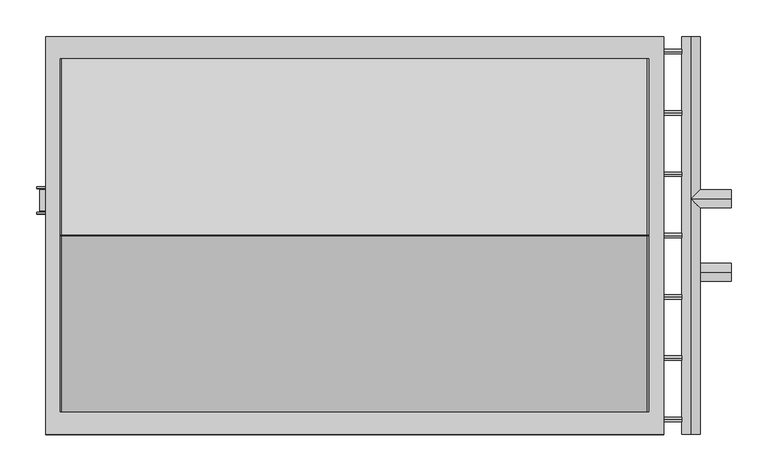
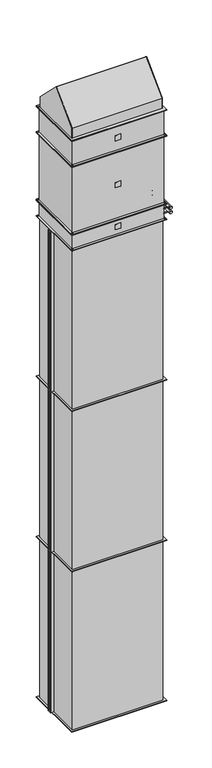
"""IFC4 building model written with IfcOpenShell, lengths in millimetres: proxy geometry, KORF_Завеса_ВодянойНагрев_PWZ_C : PWZ-C 80-50 W2."""

from ifc_helpers import new_model, si_unit, point, frame, frame_2d, origin, origin_with_axes, place, context, project, spatial, polyline, circle_curve, ellipse_curve, trimmed, segment, composite_curve, outline, extrude, source, transform, mapped, element, save
from ifc_brep_helpers import plane_surface, cylinder_surface, advanced_brep


def mechanical_equipment_de77129b(model_context):
    return source(origin(), model_context, "Body", "SolidModel", [
        extrude(outline(polyline([(25.0, -255.0), (-25.0, -255.0), (-25.0, -253.0), (25.0, -253.0), (25.0, -255.0)])), frame((0.0, 0.0, 4550.0), z_axis=(0.0, 0.0, 1.0), x_axis=(1.0, 0.0, 0.0)), (0.0, 0.0, 1.0), 50.0),
        extrude(outline(polyline([(420.0, -270.0), (-420.0, -270.0), (-420.0, 270.0), (420.0, 270.0), (420.0, -270.0)]), holes=[polyline([(400.0, -250.0), (400.0, 250.0), (-400.0, 250.0), (-400.0, -250.0), (400.0, -250.0)]), composite_curve([segment(trimmed(circle_curve(frame_2d((-410.0, -260.0)), 4.5), [point((-405.5, -260.0))], [point((-414.5, -260.0))], True, "CARTESIAN"), True, "CONTINUOUS"), segment(trimmed(circle_curve(frame_2d((-410.0, -260.0)), 4.5), [point((-414.5, -260.0))], [point((-405.5, -260.0))], True, "CARTESIAN"), True, "CONTINUOUS")], self_intersect=False), composite_curve([segment(trimmed(circle_curve(frame_2d((410.0, -260.0)), 4.5), [point((414.5, -260.0))], [point((405.5, -260.0))], True, "CARTESIAN"), True, "CONTINUOUS"), segment(trimmed(circle_curve(frame_2d((410.0, -260.0)), 4.5), [point((405.5, -260.0))], [point((414.5, -260.0))], True, "CARTESIAN"), True, "CONTINUOUS")], self_intersect=False), composite_curve([segment(trimmed(circle_curve(frame_2d((410.0, 260.0)), 4.5), [point((414.5, 260.0))], [point((405.5, 260.0))], True, "CARTESIAN"), True, "CONTINUOUS"), segment(trimmed(circle_curve(frame_2d((410.0, 260.0)), 4.5), [point((405.5, 260.0))], [point((414.5, 260.0))], True, "CARTESIAN"), True, "CONTINUOUS")], self_intersect=False), composite_curve([segment(trimmed(circle_curve(frame_2d((-410.0, 260.0)), 4.5), [point((-405.5, 260.0))], [point((-414.5, 260.0))], True, "CARTESIAN"), True, "CONTINUOUS"), segment(trimmed(circle_curve(frame_2d((-410.0, 260.0)), 4.5), [point((-414.5, 260.0))], [point((-405.5, 260.0))], True, "CARTESIAN"), True, "CONTINUOUS")], self_intersect=False)]), frame((0.0, 0.0, 4645.0), z_axis=(0.0, 0.0, 1.0), x_axis=(1.0, 0.0, 0.0)), (0.0, 0.0, 1.0), 5.0),
        extrude(outline(polyline([(420.0, -270.0), (-420.0, -270.0), (-420.0, 270.0), (420.0, 270.0), (420.0, -270.0)]), holes=[polyline([(400.0, -250.0), (400.0, 250.0), (-400.0, 250.0), (-400.0, -250.0), (400.0, -250.0)]), composite_curve([segment(trimmed(circle_curve(frame_2d((-410.0, -260.0)), 4.5), [point((-405.5, -260.0))], [point((-414.5, -260.0))], True, "CARTESIAN"), True, "CONTINUOUS"), segment(trimmed(circle_curve(frame_2d((-410.0, -260.0)), 4.5), [point((-414.5, -260.0))], [point((-405.5, -260.0))], True, "CARTESIAN"), True, "CONTINUOUS")], self_intersect=False), composite_curve([segment(trimmed(circle_curve(frame_2d((410.0, -260.0)), 4.5), [point((414.5, -260.0))], [point((405.5, -260.0))], True, "CARTESIAN"), True, "CONTINUOUS"), segment(trimmed(circle_curve(frame_2d((410.0, -260.0)), 4.5), [point((405.5, -260.0))], [point((414.5, -260.0))], True, "CARTESIAN"), True, "CONTINUOUS")], self_intersect=False), composite_curve([segment(trimmed(circle_curve(frame_2d((410.0, 260.0)), 4.5), [point((414.5, 260.0))], [point((405.5, 260.0))], True, "CARTESIAN"), True, "CONTINUOUS"), segment(trimmed(circle_curve(frame_2d((410.0, 260.0)), 4.5), [point((405.5, 260.0))], [point((414.5, 260.0))], True, "CARTESIAN"), True, "CONTINUOUS")], self_intersect=False), composite_curve([segment(trimmed(circle_curve(frame_2d((-410.0, 260.0)), 4.5), [point((-405.5, 260.0))], [point((-414.5, 260.0))], True, "CARTESIAN"), True, "CONTINUOUS"), segment(trimmed(circle_curve(frame_2d((-410.0, 260.0)), 4.5), [point((-414.5, 260.0))], [point((-405.5, 260.0))], True, "CARTESIAN"), True, "CONTINUOUS")], self_intersect=False)]), frame((0.0, 0.0, 4500.0), z_axis=(0.0, 0.0, 1.0), x_axis=(1.0, 0.0, 0.0)), (0.0, 0.0, 1.0), 5.0),
        extrude(outline(polyline([(403.0, -253.0), (-403.0, -253.0), (-403.0, 253.0), (403.0, 253.0), (403.0, -253.0)])), frame((0.0, 0.0, 4505.0), z_axis=(0.0, 0.0, 1.0), x_axis=(1.0, 0.0, 0.0)), (0.0, 0.0, 1.0), 140.0),
        advanced_brep(
        [(512.0, -50.0, 4541.0), (512.0, -50.0, 4566.0), (457.5, -50.0, 4541.0), (457.5, -50.0, 4566.0), (457.5, -270.0, 4541.0), (457.5, -270.0, 4566.0), (457.5, 270.0, 4541.0), (457.5, 270.0, 4566.0)],
        [
            (0, 1, circle_curve(frame((512.0, -50.0, 4553.5), z_axis=(1.0, 0.0, 0.0), x_axis=(0.0, 0.0, 1.0000000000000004)), 12.5)),
            (1, 0, circle_curve(frame((512.0, -50.0, 4553.5), z_axis=(1.0, 0.0, 0.0), x_axis=(0.0, 0.0, 1.0000000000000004)), 12.5)),
            (0, 2),
            (2, 3, ellipse_curve(frame((457.5, -50.0, 4553.5), z_axis=(0.7071067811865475, -0.7071067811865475, 0.0), x_axis=(0.7071067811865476, 0.7071067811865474, 0.0)), 17.6776695, 12.5)),
            (3, 1),
            (3, 2, ellipse_curve(frame((457.5, -50.0, 4553.5), z_axis=(0.7071067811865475, 0.7071067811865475, 0.0), x_axis=(0.7071067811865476, -0.7071067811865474, 0.0)), 17.6776695, 12.5)),
            (4, 5, circle_curve(frame((457.5, -270.0, 4553.5), z_axis=(0.0, -1.0, 0.0), x_axis=(0.0, 0.0, 1.0000000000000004)), 12.5)),
            (5, 4, circle_curve(frame((457.5, -270.0, 4553.5), z_axis=(0.0, -1.0, 0.0), x_axis=(0.0, 0.0, 1.0000000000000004)), 12.5)),
            (6, 7, circle_curve(frame((457.5, 270.0, 4553.5), z_axis=(0.0, 1.0, 0.0), x_axis=(0.0, 0.0, 1.0000000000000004)), 12.5)),
            (7, 6, circle_curve(frame((457.5, 270.0, 4553.5), z_axis=(0.0, 1.0, 0.0), x_axis=(0.0, 0.0, 1.0000000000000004)), 12.5)),
            (4, 2),
            (3, 5),
            (7, 3),
            (2, 6),
        ],
        [
            plane_surface(frame((512.0, -50.0, 4566.0), z_axis=(1.0, 0.0, 0.0), x_axis=(0.0, -1.0, 0.0))),
            cylinder_surface(frame((457.5, -50.0, 4553.5), z_axis=(1.0000000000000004, 0.0, 0.0), x_axis=(0.0, 0.0, 1.0000000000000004)), 12.5),
            plane_surface(frame((457.5, -270.0, 4566.0), z_axis=(0.0, -1.0, 0.0), x_axis=(-1.0, 0.0, 0.0))),
            plane_surface(frame((457.5, 270.0, 4566.0), z_axis=(0.0, 1.0, 0.0), x_axis=(1.0, 0.0, 0.0))),
            cylinder_surface(frame((457.5, 270.0, 4553.5), z_axis=(0.0, -1.0, 0.0), x_axis=(0.0, 0.0, 1.0000000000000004)), 12.5),
        ],
        [
            (0, [[1, 2]]),
            (1, [[-1, 3, 4, 5]]),
            (1, [[-2, -5, 6, -3]]),
            (2, [[7, 8]]),
            (3, [[9, 10]]),
            (4, [[-7, 11, -6, 12]]),
            (4, [[-10, 13, -4, 14]]),
            (4, [[-8, -12, -13, -9, -14, -11]]),
        ],
    ),
        advanced_brep(
        [(512.0, 50.0, 4584.0), (512.0, 50.0, 4609.0), (457.5, 50.0, 4584.0), (457.5, 50.0, 4609.0), (457.5, -270.0, 4584.0), (457.5, -270.0, 4609.0), (457.5, 270.0, 4584.0), (457.5, 270.0, 4609.0)],
        [
            (0, 1, circle_curve(frame((512.0, 50.0, 4596.5), z_axis=(1.0, 0.0, 0.0), x_axis=(0.0, 0.0, 1.0000000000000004)), 12.5)),
            (1, 0, circle_curve(frame((512.0, 50.0, 4596.5), z_axis=(1.0, 0.0, 0.0), x_axis=(0.0, 0.0, 1.0000000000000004)), 12.5)),
            (0, 2),
            (2, 3, ellipse_curve(frame((457.5, 50.0, 4596.5), z_axis=(0.7071067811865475, -0.7071067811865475, 0.0), x_axis=(0.7071067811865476, 0.7071067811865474, 0.0)), 17.6776695, 12.5)),
            (3, 1),
            (3, 2, ellipse_curve(frame((457.5, 50.0, 4596.5), z_axis=(0.7071067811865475, 0.7071067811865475, 0.0), x_axis=(0.7071067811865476, -0.7071067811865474, 0.0)), 17.6776695, 12.5)),
            (4, 5, circle_curve(frame((457.5, -270.0, 4596.5), z_axis=(0.0, -1.0, 0.0), x_axis=(0.0, 0.0, 1.0000000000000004)), 12.5)),
            (5, 4, circle_curve(frame((457.5, -270.0, 4596.5), z_axis=(0.0, -1.0, 0.0), x_axis=(0.0, 0.0, 1.0000000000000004)), 12.5)),
            (6, 7, circle_curve(frame((457.5, 270.0, 4596.5), z_axis=(0.0, 1.0, 0.0), x_axis=(0.0, 0.0, 1.0000000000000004)), 12.5)),
            (7, 6, circle_curve(frame((457.5, 270.0, 4596.5), z_axis=(0.0, 1.0, 0.0), x_axis=(0.0, 0.0, 1.0000000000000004)), 12.5)),
            (4, 2),
            (3, 5),
            (7, 3),
            (2, 6),
        ],
        [
            plane_surface(frame((512.0, -50.0, 4566.0), z_axis=(1.0, 0.0, 0.0), x_axis=(0.0, -1.0, 0.0))),
            cylinder_surface(frame((0.0, 50.0, 4596.5), z_axis=(1.0000000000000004, 0.0, 0.0), x_axis=(0.0, 0.0, 1.0000000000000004)), 12.5),
            plane_surface(frame((457.5, -270.0, 4566.0), z_axis=(0.0, -1.0, 0.0), x_axis=(-1.0, 0.0, 0.0))),
            plane_surface(frame((457.5, 270.0, 4566.0), z_axis=(0.0, 1.0, 0.0), x_axis=(1.0, 0.0, 0.0))),
            cylinder_surface(frame((457.5, 0.0, 4596.5), z_axis=(0.0, -1.0, 0.0), x_axis=(0.0, 0.0, 1.0000000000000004)), 12.5),
        ],
        [
            (0, [[1, 2]]),
            (1, [[-1, 3, 4, 5]]),
            (1, [[-2, -5, 6, -3]]),
            (2, [[7, 8]]),
            (3, [[9, 10]]),
            (4, [[-7, 11, -6, 12]]),
            (4, [[-10, 13, -4, 14]]),
            (4, [[-8, -12, -13, -9, -14, -11]]),
        ],
    ),
        extrude(outline(composite_curve([segment(trimmed(circle_curve(frame_2d((-250.0, 4553.5)), 3.0), [point((-250.0, 4550.5))], [point((-250.0, 4556.5))], False, "CARTESIAN"), True, "CONTINUOUS"), segment(trimmed(circle_curve(frame_2d((-250.0, 4553.5)), 3.0), [point((-250.0, 4556.5))], [point((-250.0, 4550.5))], False, "CARTESIAN"), True, "CONTINUOUS")], self_intersect=False)), frame((403.0, 0.0, 0.0), z_axis=(1.0, 0.0, 0.0), x_axis=(0.0, 1.0, 0.0)), (0.0, 0.0, 1.0), 54.5),
        extrude(outline(composite_curve([segment(trimmed(circle_curve(frame_2d((-166.6666667, 4553.5)), 3.0), [point((-166.6666667, 4550.5))], [point((-166.6666667, 4556.5))], False, "CARTESIAN"), True, "CONTINUOUS"), segment(trimmed(circle_curve(frame_2d((-166.6666667, 4553.5)), 3.0), [point((-166.6666667, 4556.5))], [point((-166.6666667, 4550.5))], False, "CARTESIAN"), True, "CONTINUOUS")], self_intersect=False)), frame((403.0, 0.0, 0.0), z_axis=(1.0, 0.0, 0.0), x_axis=(0.0, 1.0, 0.0)), (0.0, 0.0, 1.0), 54.5),
        extrude(outline(composite_curve([segment(trimmed(circle_curve(frame_2d((-83.3333333, 4553.5)), 3.0), [point((-83.3333333, 4550.5))], [point((-83.3333333, 4556.5))], False, "CARTESIAN"), True, "CONTINUOUS"), segment(trimmed(circle_curve(frame_2d((-83.3333333, 4553.5)), 3.0), [point((-83.3333333, 4556.5))], [point((-83.3333333, 4550.5))], False, "CARTESIAN"), True, "CONTINUOUS")], self_intersect=False)), frame((403.0, 0.0, 0.0), z_axis=(1.0, 0.0, 0.0), x_axis=(0.0, 1.0, 0.0)), (0.0, 0.0, 1.0), 54.5),
        extrude(outline(composite_curve([segment(trimmed(circle_curve(frame_2d((0.0, 4553.5)), 3.0), [point((0.0, 4550.5))], [point((0.0, 4556.5))], False, "CARTESIAN"), True, "CONTINUOUS"), segment(trimmed(circle_curve(frame_2d((0.0, 4553.5)), 3.0), [point((0.0, 4556.5))], [point((0.0, 4550.5))], False, "CARTESIAN"), True, "CONTINUOUS")], self_intersect=False)), frame((403.0, 0.0, 0.0), z_axis=(1.0, 0.0, 0.0), x_axis=(0.0, 1.0, 0.0)), (0.0, 0.0, 1.0), 54.5),
        extrude(outline(composite_curve([segment(trimmed(circle_curve(frame_2d((83.3333333, 4553.5)), 3.0), [point((83.3333333, 4550.5))], [point((83.3333333, 4556.5))], False, "CARTESIAN"), True, "CONTINUOUS"), segment(trimmed(circle_curve(frame_2d((83.3333333, 4553.5)), 3.0), [point((83.3333333, 4556.5))], [point((83.3333333, 4550.5))], False, "CARTESIAN"), True, "CONTINUOUS")], self_intersect=False)), frame((403.0, 0.0, 0.0), z_axis=(1.0, 0.0, 0.0), x_axis=(0.0, 1.0, 0.0)), (0.0, 0.0, 1.0), 54.5),
        extrude(outline(composite_curve([segment(trimmed(circle_curve(frame_2d((166.6666667, 4553.5)), 3.0), [point((166.6666667, 4550.5))], [point((166.6666667, 4556.5))], False, "CARTESIAN"), True, "CONTINUOUS"), segment(trimmed(circle_curve(frame_2d((166.6666667, 4553.5)), 3.0), [point((166.6666667, 4556.5))], [point((166.6666667, 4550.5))], False, "CARTESIAN"), True, "CONTINUOUS")], self_intersect=False)), frame((403.0, 0.0, 0.0), z_axis=(1.0, 0.0, 0.0), x_axis=(0.0, 1.0, 0.0)), (0.0, 0.0, 1.0), 54.5),
        extrude(outline(composite_curve([segment(trimmed(circle_curve(frame_2d((166.6666667, 4596.5)), 3.0), [point((166.6666667, 4593.5))], [point((166.6666667, 4599.5))], False, "CARTESIAN"), True, "CONTINUOUS"), segment(trimmed(circle_curve(frame_2d((166.6666667, 4596.5)), 3.0), [point((166.6666667, 4599.5))], [point((166.6666667, 4593.5))], False, "CARTESIAN"), True, "CONTINUOUS")], self_intersect=False)), frame((403.0, 0.0, 0.0), z_axis=(1.0, 0.0, 0.0), x_axis=(0.0, 1.0, 0.0)), (0.0, 0.0, 1.0), 54.5),
        extrude(outline(composite_curve([segment(trimmed(circle_curve(frame_2d((83.3333333, 4596.5)), 3.0), [point((83.3333333, 4593.5))], [point((83.3333333, 4599.5))], False, "CARTESIAN"), True, "CONTINUOUS"), segment(trimmed(circle_curve(frame_2d((83.3333333, 4596.5)), 3.0), [point((83.3333333, 4599.5))], [point((83.3333333, 4593.5))], False, "CARTESIAN"), True, "CONTINUOUS")], self_intersect=False)), frame((403.0, 0.0, 0.0), z_axis=(1.0, 0.0, 0.0), x_axis=(0.0, 1.0, 0.0)), (0.0, 0.0, 1.0), 54.5),
        extrude(outline(composite_curve([segment(trimmed(circle_curve(frame_2d((0.0, 4596.5)), 3.0), [point((0.0, 4593.5))], [point((0.0, 4599.5))], False, "CARTESIAN"), True, "CONTINUOUS"), segment(trimmed(circle_curve(frame_2d((0.0, 4596.5)), 3.0), [point((0.0, 4599.5))], [point((0.0, 4593.5))], False, "CARTESIAN"), True, "CONTINUOUS")], self_intersect=False)), frame((403.0, 0.0, 0.0), z_axis=(1.0, 0.0, 0.0), x_axis=(0.0, 1.0, 0.0)), (0.0, 0.0, 1.0), 54.5),
        extrude(outline(composite_curve([segment(trimmed(circle_curve(frame_2d((-83.3333333, 4596.5)), 3.0), [point((-83.3333333, 4593.5))], [point((-83.3333333, 4599.5))], False, "CARTESIAN"), True, "CONTINUOUS"), segment(trimmed(circle_curve(frame_2d((-83.3333333, 4596.5)), 3.0), [point((-83.3333333, 4599.5))], [point((-83.3333333, 4593.5))], False, "CARTESIAN"), True, "CONTINUOUS")], self_intersect=False)), frame((403.0, 0.0, 0.0), z_axis=(1.0, 0.0, 0.0), x_axis=(0.0, 1.0, 0.0)), (0.0, 0.0, 1.0), 54.5),
        extrude(outline(composite_curve([segment(trimmed(circle_curve(frame_2d((-166.6666667, 4596.5)), 3.0), [point((-166.6666667, 4593.5))], [point((-166.6666667, 4599.5))], False, "CARTESIAN"), True, "CONTINUOUS"), segment(trimmed(circle_curve(frame_2d((-166.6666667, 4596.5)), 3.0), [point((-166.6666667, 4599.5))], [point((-166.6666667, 4593.5))], False, "CARTESIAN"), True, "CONTINUOUS")], self_intersect=False)), frame((403.0, 0.0, 0.0), z_axis=(1.0, 0.0, 0.0), x_axis=(0.0, 1.0, 0.0)), (0.0, 0.0, 1.0), 54.5),
        extrude(outline(composite_curve([segment(trimmed(circle_curve(frame_2d((-250.0, 4596.5)), 3.0), [point((-250.0, 4593.5))], [point((-250.0, 4599.5))], False, "CARTESIAN"), True, "CONTINUOUS"), segment(trimmed(circle_curve(frame_2d((-250.0, 4596.5)), 3.0), [point((-250.0, 4599.5))], [point((-250.0, 4593.5))], False, "CARTESIAN"), True, "CONTINUOUS")], self_intersect=False)), frame((403.0, 0.0, 0.0), z_axis=(1.0, 0.0, 0.0), x_axis=(0.0, 1.0, 0.0)), (0.0, 0.0, 1.0), 54.5),
        extrude(outline(composite_curve([segment(trimmed(circle_curve(frame_2d((250.0, 4553.5)), 3.0), [point((250.0, 4550.5))], [point((250.0, 4556.5))], False, "CARTESIAN"), True, "CONTINUOUS"), segment(trimmed(circle_curve(frame_2d((250.0, 4553.5)), 3.0), [point((250.0, 4556.5))], [point((250.0, 4550.5))], False, "CARTESIAN"), True, "CONTINUOUS")], self_intersect=False)), frame((403.0, 0.0, 0.0), z_axis=(1.0, 0.0, 0.0), x_axis=(0.0, 1.0, 0.0)), (0.0, 0.0, 1.0), 54.5),
        extrude(outline(composite_curve([segment(trimmed(circle_curve(frame_2d((250.0, 4596.5)), 3.0), [point((250.0, 4593.5))], [point((250.0, 4599.5))], False, "CARTESIAN"), True, "CONTINUOUS"), segment(trimmed(circle_curve(frame_2d((250.0, 4596.5)), 3.0), [point((250.0, 4599.5))], [point((250.0, 4593.5))], False, "CARTESIAN"), True, "CONTINUOUS")], self_intersect=False)), frame((403.0, 0.0, 0.0), z_axis=(1.0, 0.0, 0.0), x_axis=(0.0, 1.0, 0.0)), (0.0, 0.0, 1.0), 54.5),
        extrude(outline(polyline([(25.0, -255.0), (-25.0, -255.0), (-25.0, -253.0), (25.0, -253.0), (25.0, -255.0)])), frame((0.0, 0.0, 5381.0), z_axis=(0.0, 0.0, 1.0), x_axis=(1.0, 0.0, 0.0)), (0.0, 0.0, 1.0), 50.0),
        extrude(outline(polyline([(-420.0, -270.0), (-420.0, 270.0), (420.0, 270.0), (420.0, -270.0), (-420.0, -270.0)]), holes=[polyline([(-400.0, -250.0), (400.0, -250.0), (400.0, 250.0), (-400.0, 250.0), (-400.0, -250.0)]), composite_curve([segment(trimmed(circle_curve(frame_2d((410.0, -260.0)), 4.5), [point((414.5, -260.0))], [point((405.5, -260.0))], True, "CARTESIAN"), True, "CONTINUOUS"), segment(trimmed(circle_curve(frame_2d((410.0, -260.0)), 4.5), [point((405.5, -260.0))], [point((414.5, -260.0))], True, "CARTESIAN"), True, "CONTINUOUS")], self_intersect=False), composite_curve([segment(trimmed(circle_curve(frame_2d((-410.0, -260.0)), 4.5), [point((-405.5, -260.0))], [point((-414.5, -260.0))], True, "CARTESIAN"), True, "CONTINUOUS"), segment(trimmed(circle_curve(frame_2d((-410.0, -260.0)), 4.5), [point((-414.5, -260.0))], [point((-405.5, -260.0))], True, "CARTESIAN"), True, "CONTINUOUS")], self_intersect=False), composite_curve([segment(trimmed(circle_curve(frame_2d((-410.0, 260.0)), 4.5), [point((-405.5, 260.0))], [point((-414.5, 260.0))], True, "CARTESIAN"), True, "CONTINUOUS"), segment(trimmed(circle_curve(frame_2d((-410.0, 260.0)), 4.5), [point((-414.5, 260.0))], [point((-405.5, 260.0))], True, "CARTESIAN"), True, "CONTINUOUS")], self_intersect=False), composite_curve([segment(trimmed(circle_curve(frame_2d((410.0, 260.0)), 4.5), [point((414.5, 260.0))], [point((405.5, 260.0))], True, "CARTESIAN"), True, "CONTINUOUS"), segment(trimmed(circle_curve(frame_2d((410.0, 260.0)), 4.5), [point((405.5, 260.0))], [point((414.5, 260.0))], True, "CARTESIAN"), True, "CONTINUOUS")], self_intersect=False)]), frame((0.0, 0.0, 5285.0), z_axis=(0.0, 0.0, 1.0), x_axis=(1.0, 0.0, 0.0)), (0.0, 0.0, 1.0), 5.0),
        extrude(outline(polyline([(-420.0, -270.0), (-420.0, 270.0), (420.0, 270.0), (420.0, -270.0), (-420.0, -270.0)]), holes=[polyline([(-400.0, -250.0), (400.0, -250.0), (400.0, 250.0), (-400.0, 250.0), (-400.0, -250.0)]), composite_curve([segment(trimmed(circle_curve(frame_2d((410.0, -260.0)), 4.5), [point((414.5, -260.0))], [point((405.5, -260.0))], True, "CARTESIAN"), True, "CONTINUOUS"), segment(trimmed(circle_curve(frame_2d((410.0, -260.0)), 4.5), [point((405.5, -260.0))], [point((414.5, -260.0))], True, "CARTESIAN"), True, "CONTINUOUS")], self_intersect=False), composite_curve([segment(trimmed(circle_curve(frame_2d((-410.0, -260.0)), 4.5), [point((-405.5, -260.0))], [point((-414.5, -260.0))], True, "CARTESIAN"), True, "CONTINUOUS"), segment(trimmed(circle_curve(frame_2d((-410.0, -260.0)), 4.5), [point((-414.5, -260.0))], [point((-405.5, -260.0))], True, "CARTESIAN"), True, "CONTINUOUS")], self_intersect=False), composite_curve([segment(trimmed(circle_curve(frame_2d((-410.0, 260.0)), 4.5), [point((-405.5, 260.0))], [point((-414.5, 260.0))], True, "CARTESIAN"), True, "CONTINUOUS"), segment(trimmed(circle_curve(frame_2d((-410.0, 260.0)), 4.5), [point((-414.5, 260.0))], [point((-405.5, 260.0))], True, "CARTESIAN"), True, "CONTINUOUS")], self_intersect=False), composite_curve([segment(trimmed(circle_curve(frame_2d((410.0, 260.0)), 4.5), [point((414.5, 260.0))], [point((405.5, 260.0))], True, "CARTESIAN"), True, "CONTINUOUS"), segment(trimmed(circle_curve(frame_2d((410.0, 260.0)), 4.5), [point((405.5, 260.0))], [point((414.5, 260.0))], True, "CARTESIAN"), True, "CONTINUOUS")], self_intersect=False)]), frame((0.0, 0.0, 5522.0), z_axis=(0.0, 0.0, 1.0), x_axis=(1.0, 0.0, 0.0)), (0.0, 0.0, 1.0), 5.0),
        extrude(outline(polyline([(-403.0, -253.0), (-403.0, 253.0), (403.0, 253.0), (403.0, -253.0), (-403.0, -253.0)])), frame((0.0, 0.0, 5290.0), z_axis=(0.0, 0.0, 1.0), x_axis=(1.0, 0.0, 0.0)), (0.0, 0.0, 1.0), 232.0),
        extrude(outline(polyline([(25.0, -255.0), (-25.0, -255.0), (-25.0, -253.0), (25.0, -253.0), (25.0, -255.0)])), frame((0.0, 0.0, 4942.5), z_axis=(0.0, 0.0, 1.0), x_axis=(1.0, 0.0, 0.0)), (0.0, 0.0, 1.0), 50.0),
        extrude(outline(polyline([(420.0, -270.0), (-420.0, -270.0), (-420.0, 270.0), (420.0, 270.0), (420.0, -270.0)]), holes=[polyline([(400.0, -250.0), (400.0, 250.0), (-400.0, 250.0), (-400.0, -250.0), (400.0, -250.0)]), composite_curve([segment(trimmed(circle_curve(frame_2d((-410.0, -260.0)), 4.5), [point((-405.5, -260.0))], [point((-414.5, -260.0))], True, "CARTESIAN"), True, "CONTINUOUS"), segment(trimmed(circle_curve(frame_2d((-410.0, -260.0)), 4.5), [point((-414.5, -260.0))], [point((-405.5, -260.0))], True, "CARTESIAN"), True, "CONTINUOUS")], self_intersect=False), composite_curve([segment(trimmed(circle_curve(frame_2d((410.0, -260.0)), 4.5), [point((414.5, -260.0))], [point((405.5, -260.0))], True, "CARTESIAN"), True, "CONTINUOUS"), segment(trimmed(circle_curve(frame_2d((410.0, -260.0)), 4.5), [point((405.5, -260.0))], [point((414.5, -260.0))], True, "CARTESIAN"), True, "CONTINUOUS")], self_intersect=False), composite_curve([segment(trimmed(circle_curve(frame_2d((410.0, 260.0)), 4.5), [point((414.5, 260.0))], [point((405.5, 260.0))], True, "CARTESIAN"), True, "CONTINUOUS"), segment(trimmed(circle_curve(frame_2d((410.0, 260.0)), 4.5), [point((405.5, 260.0))], [point((414.5, 260.0))], True, "CARTESIAN"), True, "CONTINUOUS")], self_intersect=False), composite_curve([segment(trimmed(circle_curve(frame_2d((-410.0, 260.0)), 4.5), [point((-405.5, 260.0))], [point((-414.5, 260.0))], True, "CARTESIAN"), True, "CONTINUOUS"), segment(trimmed(circle_curve(frame_2d((-410.0, 260.0)), 4.5), [point((-414.5, 260.0))], [point((-405.5, 260.0))], True, "CARTESIAN"), True, "CONTINUOUS")], self_intersect=False)]), frame((0.0, 0.0, 5280.0), z_axis=(0.0, 0.0, 1.0), x_axis=(1.0, 0.0, 0.0)), (0.0, 0.0, 1.0), 5.0),
        extrude(outline(polyline([(420.0, -270.0), (-420.0, -270.0), (-420.0, 270.0), (420.0, 270.0), (420.0, -270.0)]), holes=[polyline([(400.0, -250.0), (400.0, 250.0), (-400.0, 250.0), (-400.0, -250.0), (400.0, -250.0)]), composite_curve([segment(trimmed(circle_curve(frame_2d((-410.0, -260.0)), 4.5), [point((-405.5, -260.0))], [point((-414.5, -260.0))], True, "CARTESIAN"), True, "CONTINUOUS"), segment(trimmed(circle_curve(frame_2d((-410.0, -260.0)), 4.5), [point((-414.5, -260.0))], [point((-405.5, -260.0))], True, "CARTESIAN"), True, "CONTINUOUS")], self_intersect=False), composite_curve([segment(trimmed(circle_curve(frame_2d((410.0, -260.0)), 4.5), [point((414.5, -260.0))], [point((405.5, -260.0))], True, "CARTESIAN"), True, "CONTINUOUS"), segment(trimmed(circle_curve(frame_2d((410.0, -260.0)), 4.5), [point((405.5, -260.0))], [point((414.5, -260.0))], True, "CARTESIAN"), True, "CONTINUOUS")], self_intersect=False), composite_curve([segment(trimmed(circle_curve(frame_2d((410.0, 260.0)), 4.5), [point((414.5, 260.0))], [point((405.5, 260.0))], True, "CARTESIAN"), True, "CONTINUOUS"), segment(trimmed(circle_curve(frame_2d((410.0, 260.0)), 4.5), [point((405.5, 260.0))], [point((414.5, 260.0))], True, "CARTESIAN"), True, "CONTINUOUS")], self_intersect=False), composite_curve([segment(trimmed(circle_curve(frame_2d((-410.0, 260.0)), 4.5), [point((-405.5, 260.0))], [point((-414.5, 260.0))], True, "CARTESIAN"), True, "CONTINUOUS"), segment(trimmed(circle_curve(frame_2d((-410.0, 260.0)), 4.5), [point((-414.5, 260.0))], [point((-405.5, 260.0))], True, "CARTESIAN"), True, "CONTINUOUS")], self_intersect=False)]), frame((0.0, 0.0, 4650.0), z_axis=(0.0, 0.0, 1.0), x_axis=(1.0, 0.0, 0.0)), (0.0, 0.0, 1.0), 5.0),
        extrude(outline(polyline([(403.0, -253.0), (-403.0, -253.0), (-403.0, 253.0), (403.0, 253.0), (403.0, -253.0)])), frame((0.0, 0.0, 4655.0), z_axis=(0.0, 0.0, 1.0), x_axis=(1.0, 0.0, 0.0)), (0.0, 0.0, 1.0), 625.0),
        extrude(outline(polyline([(400.0, 250.0), (400.0, -250.0), (-400.0, -250.0), (-400.0, 250.0), (400.0, 250.0)])), frame((0.0, 0.0, 3000.0), z_axis=(0.0, 0.0, 1.0), x_axis=(1.0, 0.0, 0.0)), (0.0, 0.0, 1.0), 1500.0),
        extrude(outline(polyline([(-428.0, 62.5), (-400.0, 62.5), (-400.0, 33.5), (-428.0, 33.5), (-428.0, 62.5)])), frame((0.0, 0.0, 3002.0), z_axis=(0.0, 0.0, 1.0), x_axis=(1.0, 0.0, 0.0)), (0.0, 0.0, 1.0), 1496.0),
        extrude(outline(polyline([(-432.0, 66.5), (-400.0, 66.5), (-400.0, 64.5), (-432.0, 64.5), (-432.0, 66.5)])), frame((0.0, 0.0, 3002.0), z_axis=(0.0, 0.0, 1.0), x_axis=(1.0, 0.0, 0.0)), (0.0, 0.0, 1.0), 1496.0),
        extrude(outline(polyline([(-432.0, 29.5), (-432.0, 31.5), (-400.0, 31.5), (-400.0, 29.5), (-432.0, 29.5)])), frame((0.0, 0.0, 3002.0), z_axis=(0.0, 0.0, 1.0), x_axis=(1.0, 0.0, 0.0)), (0.0, 0.0, 1.0), 1496.0),
        extrude(outline(polyline([(420.0, 270.0), (420.0, -270.0), (-420.0, -270.0), (-420.0, 270.0), (420.0, 270.0)]), holes=[polyline([(400.0, 250.0), (-400.0, 250.0), (-400.0, -250.0), (400.0, -250.0), (400.0, 250.0)])]), frame((0.0, 0.0, 4498.0), z_axis=(0.0, 0.0, 1.0), x_axis=(1.0, 0.0, 0.0)), (0.0, 0.0, 1.0), 2.0),
        extrude(outline(polyline([(420.0, 270.0), (420.0, -270.0), (-420.0, -270.0), (-420.0, 270.0), (420.0, 270.0)]), holes=[polyline([(400.0, 250.0), (-400.0, 250.0), (-400.0, -250.0), (400.0, -250.0), (400.0, 250.0)])]), frame((0.0, 0.0, 3000.0), z_axis=(0.0, 0.0, 1.0), x_axis=(1.0, 0.0, 0.0)), (0.0, 0.0, 1.0), 2.0),
        extrude(outline(polyline([(400.0, 250.0), (400.0, -250.0), (-400.0, -250.0), (-400.0, 250.0), (400.0, 250.0)])), frame((0.0, 0.0, 1500.0), z_axis=(0.0, 0.0, 1.0), x_axis=(1.0, 0.0, 0.0)), (0.0, 0.0, 1.0), 1500.0),
        extrude(outline(polyline([(-428.0, 62.5), (-400.0, 62.5), (-400.0, 33.5), (-428.0, 33.5), (-428.0, 62.5)])), frame((0.0, 0.0, 1502.0), z_axis=(0.0, 0.0, 1.0), x_axis=(1.0, 0.0, 0.0)), (0.0, 0.0, 1.0), 1496.0),
        extrude(outline(polyline([(-432.0, 66.5), (-400.0, 66.5), (-400.0, 64.5), (-432.0, 64.5), (-432.0, 66.5)])), frame((0.0, 0.0, 1502.0), z_axis=(0.0, 0.0, 1.0), x_axis=(1.0, 0.0, 0.0)), (0.0, 0.0, 1.0), 1496.0),
        extrude(outline(polyline([(-432.0, 29.5), (-432.0, 31.5), (-400.0, 31.5), (-400.0, 29.5), (-432.0, 29.5)])), frame((0.0, 0.0, 1502.0), z_axis=(0.0, 0.0, 1.0), x_axis=(1.0, 0.0, 0.0)), (0.0, 0.0, 1.0), 1496.0),
        extrude(outline(polyline([(420.0, 270.0), (420.0, -270.0), (-420.0, -270.0), (-420.0, 270.0), (420.0, 270.0)]), holes=[polyline([(400.0, 250.0), (-400.0, 250.0), (-400.0, -250.0), (400.0, -250.0), (400.0, 250.0)])]), frame((0.0, 0.0, 2998.0), z_axis=(0.0, 0.0, 1.0), x_axis=(1.0, 0.0, 0.0)), (0.0, 0.0, 1.0), 2.0),
        extrude(outline(polyline([(420.0, 270.0), (420.0, -270.0), (-420.0, -270.0), (-420.0, 270.0), (420.0, 270.0)]), holes=[polyline([(400.0, 250.0), (-400.0, 250.0), (-400.0, -250.0), (400.0, -250.0), (400.0, 250.0)])]), frame((0.0, 0.0, 1500.0), z_axis=(0.0, 0.0, 1.0), x_axis=(1.0, 0.0, 0.0)), (0.0, 0.0, 1.0), 2.0),
        extrude(outline(polyline([(400.0, 250.0), (400.0, -250.0), (-400.0, -250.0), (-400.0, 250.0), (400.0, 250.0)])), origin_with_axes(), (0.0, 0.0, 1.0), 1500.0),
        extrude(outline(polyline([(-428.0, 62.5), (-400.0, 62.5), (-400.0, 33.5), (-428.0, 33.5), (-428.0, 62.5)])), frame((0.0, 0.0, 2.0), z_axis=(0.0, 0.0, 1.0), x_axis=(1.0, 0.0, 0.0)), (0.0, 0.0, 1.0), 1496.0),
        extrude(outline(polyline([(-432.0, 66.5), (-400.0, 66.5), (-400.0, 64.5), (-432.0, 64.5), (-432.0, 66.5)])), frame((0.0, 0.0, 2.0), z_axis=(0.0, 0.0, 1.0), x_axis=(1.0, 0.0, 0.0)), (0.0, 0.0, 1.0), 1496.0),
        extrude(outline(polyline([(-432.0, 29.5), (-432.0, 31.5), (-400.0, 31.5), (-400.0, 29.5), (-432.0, 29.5)])), frame((0.0, 0.0, 2.0), z_axis=(0.0, 0.0, 1.0), x_axis=(1.0, 0.0, 0.0)), (0.0, 0.0, 1.0), 1496.0),
        extrude(outline(polyline([(420.0, 270.0), (420.0, -270.0), (-420.0, -270.0), (-420.0, 270.0), (420.0, 270.0)]), holes=[polyline([(400.0, 250.0), (-400.0, 250.0), (-400.0, -250.0), (400.0, -250.0), (400.0, 250.0)])]), frame((0.0, 0.0, 1498.0), z_axis=(0.0, 0.0, 1.0), x_axis=(1.0, 0.0, 0.0)), (0.0, 0.0, 1.0), 2.0),
        extrude(outline(polyline([(420.0, 270.0), (420.0, -270.0), (-420.0, -270.0), (-420.0, 270.0), (420.0, 270.0)]), holes=[polyline([(400.0, 250.0), (-400.0, 250.0), (-400.0, -250.0), (400.0, -250.0), (400.0, 250.0)])]), origin_with_axes(), (0.0, 0.0, 1.0), 2.0),
        extrude(outline(composite_curve([segment(polyline([(240.0, 5624.1428571), (240.0, 5529.0), (-240.0, 5529.0), (-240.0, 5624.1428571), (-0.6395979, 5866.3786763)]), True, "CONTINUOUS"), segment(trimmed(circle_curve(frame_2d((0.0, 5865.7202668)), 0.9179263), [point((-0.6395979, 5866.3786763))], [point((0.6395979, 5866.3786763))], False, "CARTESIAN"), True, "CONTINUOUS"), segment(polyline([(0.6395979, 5866.3786763), (240.0, 5624.1428571)]), True, "CONTINUOUS")], self_intersect=False)), frame((398.0, 0.0, 0.0), z_axis=(1.0, 0.0, 0.0), x_axis=(0.0, 1.0, 0.0)), (0.0, 0.0, 1.0), 2.0),
        extrude(outline(composite_curve([segment(polyline([(240.0, 5624.1428571), (240.0, 5529.0), (-240.0, 5529.0), (-240.0, 5624.1428571), (-0.6395979, 5866.3786763)]), True, "CONTINUOUS"), segment(trimmed(circle_curve(frame_2d((0.0, 5865.7202668)), 0.9179263), [point((-0.6395979, 5866.3786763))], [point((0.6395979, 5866.3786763))], False, "CARTESIAN"), True, "CONTINUOUS"), segment(polyline([(0.6395979, 5866.3786763), (240.0, 5624.1428571)]), True, "CONTINUOUS")], self_intersect=False)), frame((-398.0, 0.0, 0.0), z_axis=(1.0, 0.0, 0.0), x_axis=(0.0, 1.0, 0.0)), (0.0, 0.0, 1.0), 796.0),
        extrude(outline(composite_curve([segment(polyline([(240.0, 5624.1428571), (240.0, 5529.0), (-240.0, 5529.0), (-240.0, 5624.1428571), (-0.6395979, 5866.3786763)]), True, "CONTINUOUS"), segment(trimmed(circle_curve(frame_2d((0.0, 5865.7202668)), 0.9179263), [point((-0.6395979, 5866.3786763))], [point((0.6395979, 5866.3786763))], False, "CARTESIAN"), True, "CONTINUOUS"), segment(polyline([(0.6395979, 5866.3786763), (240.0, 5624.1428571)]), True, "CONTINUOUS")], self_intersect=False)), frame((-400.0, 0.0, 0.0), z_axis=(1.0, 0.0, 0.0), x_axis=(0.0, 1.0, 0.0)), (0.0, 0.0, 1.0), 2.0),
        extrude(outline(polyline([(420.0, 270.0), (420.0, -270.0), (-420.0, -270.0), (-420.0, 270.0), (420.0, 270.0)]), holes=[polyline([(-400.0, 240.0), (-400.0, -240.0), (400.0, -240.0), (400.0, 240.0), (-400.0, 240.0)])]), frame((0.0, 0.0, 5527.0), z_axis=(0.0, 0.0, 1.0), x_axis=(1.0, 0.0, 0.0)), (0.0, 0.0, 1.0), 2.0),
    ])


if __name__ == "__main__":
    model = new_model("IFC4")
    model_context = context("Model", 3, world=origin())
    ifc_project = project(units=[si_unit("LENGTHUNIT", "METRE", prefix="MILLI")], contexts=[model_context])
    site = spatial("IfcSite", under=ifc_project)
    building = spatial("IfcBuilding", under=site)
    placement = place(None, origin())
    mechanical_equipment_shape = mechanical_equipment_de77129b(model_context)
    element("IfcBuildingElementProxy", 1, Name="KORF_Завеса_ВодянойНагрев_PWZ_C : PWZ-C 80-50 W2", ObjectType="KORF_Завеса_ВодянойНагрев_PWZ_C : PWZ-C 80-50 W2", at=placement, inside=building, context=model_context, shape_type="MappedRepresentation", body=[
        mapped(mechanical_equipment_shape, transform((0.0, 0.0, 0.0), x_axis=(1.0, 0.0, 0.0), y_axis=(0.0, 1.0, 0.0), z_axis=(0.0, 0.0, 1.0))),
    ])
    save(model, "model.ifc")
